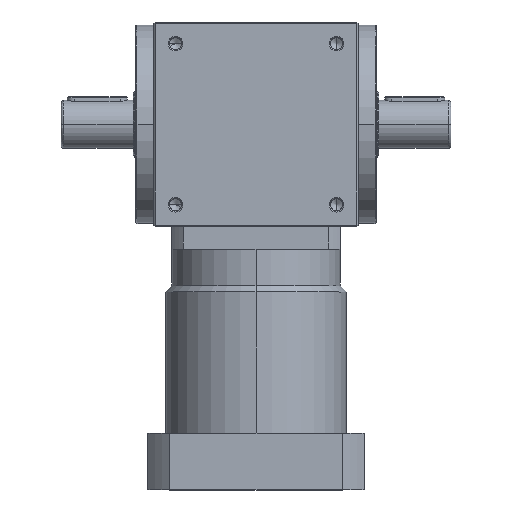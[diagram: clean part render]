
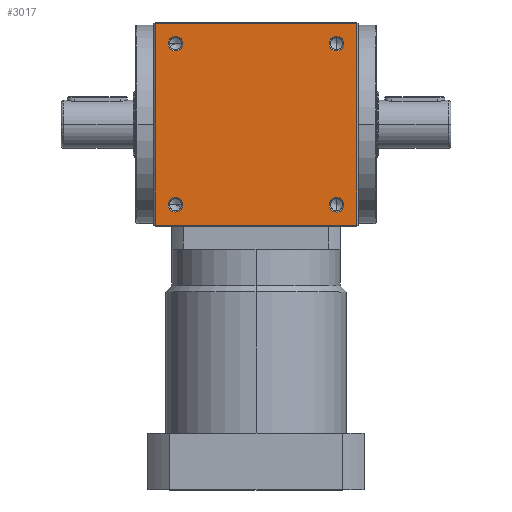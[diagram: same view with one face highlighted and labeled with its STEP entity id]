
A CAD part, top view. The second image highlights one B-rep face of the part: STEP entity #3017.
In plain terms, the highlighted planar face has unit normal (0, 0, 1).
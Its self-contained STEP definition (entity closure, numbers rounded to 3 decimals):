
#16 = EDGE_LOOP ( 'NONE', ( #2472, #1850 ) ) ;
#330 = CARTESIAN_POINT ( 'NONE',  ( 73.1, -67., 85. ) ) ;
#368 = LINE ( 'NONE', #12877, #6055 ) ;
#434 = AXIS2_PLACEMENT_3D ( 'NONE', #7140, #7122, #7114 ) ;
#543 = VERTEX_POINT ( 'NONE', #2344 ) ;
#544 = CARTESIAN_POINT ( 'NONE',  ( -73.1, 67., 85. ) ) ;
#658 = CARTESIAN_POINT ( 'NONE',  ( 0., -84., 85. ) ) ;
#692 = CARTESIAN_POINT ( 'NONE',  ( -73.1, -67., 85. ) ) ;
#738 = ORIENTED_EDGE ( 'NONE', *, *, #12549, .T. ) ;
#1176 = DIRECTION ( 'NONE',  ( 1., 0., 0. ) ) ;
#1328 = EDGE_CURVE ( 'NONE', #8059, #5375, #3643, .T. ) ;
#1421 = FACE_BOUND ( 'NONE', #12584, .T. ) ;
#1583 = ORIENTED_EDGE ( 'NONE', *, *, #1328, .F. ) ;
#1751 = EDGE_LOOP ( 'NONE', ( #1583, #11844 ) ) ;
#1850 = ORIENTED_EDGE ( 'NONE', *, *, #4255, .F. ) ;
#1965 = LINE ( 'NONE', #12853, #10666 ) ;
#2010 = CIRCLE ( 'NONE', #4167, 6.1 ) ;
#2344 = CARTESIAN_POINT ( 'NONE',  ( 60.9, 67., 85. ) ) ;
#2437 = EDGE_CURVE ( 'NONE', #6266, #11735, #4781, .T. ) ;
#2472 = ORIENTED_EDGE ( 'NONE', *, *, #8978, .F. ) ;
#2588 = ORIENTED_EDGE ( 'NONE', *, *, #8879, .F. ) ;
#2629 = DIRECTION ( 'NONE',  ( 0., -1., 0. ) ) ;
#2883 = DIRECTION ( 'NONE',  ( -1., 0., 0. ) ) ;
#2886 = DIRECTION ( 'NONE',  ( 0., 0., -1. ) ) ;
#3017 = ADVANCED_FACE ( 'NONE', ( #8639, #8331, #6284, #9012, #1421 ), #7336, .F. ) ;
#3103 = VECTOR ( 'NONE', #3879, 1000. ) ;
#3268 = LINE ( 'NONE', #4411, #3103 ) ;
#3409 = ORIENTED_EDGE ( 'NONE', *, *, #11379, .F. ) ;
#3643 = CIRCLE ( 'NONE', #6832, 6.1 ) ;
#3779 = DIRECTION ( 'NONE',  ( 1., 0., 0. ) ) ;
#3795 = DIRECTION ( 'NONE',  ( 0., 0., 1. ) ) ;
#3804 = CARTESIAN_POINT ( 'NONE',  ( -67., 67., 85. ) ) ;
#3828 = VERTEX_POINT ( 'NONE', #11688 ) ;
#3879 = DIRECTION ( 'NONE',  ( 0., 1., 0. ) ) ;
#4082 = CARTESIAN_POINT ( 'NONE',  ( -60.9, -67., 85. ) ) ;
#4167 = AXIS2_PLACEMENT_3D ( 'NONE', #10884, #10883, #10870 ) ;
#4255 = EDGE_CURVE ( 'NONE', #543, #9379, #8441, .T. ) ;
#4307 = DIRECTION ( 'NONE',  ( 0., 0., 1. ) ) ;
#4411 = CARTESIAN_POINT ( 'NONE',  ( 84., 0., 85. ) ) ;
#4590 = AXIS2_PLACEMENT_3D ( 'NONE', #11478, #11476, #11449 ) ;
#4781 = CIRCLE ( 'NONE', #5488, 6.1 ) ;
#4792 = AXIS2_PLACEMENT_3D ( 'NONE', #7858, #12059, #1176 ) ;
#5371 = VERTEX_POINT ( 'NONE', #544 ) ;
#5375 = VERTEX_POINT ( 'NONE', #692 ) ;
#5488 = AXIS2_PLACEMENT_3D ( 'NONE', #5864, #4307, #5845 ) ;
#5566 = EDGE_LOOP ( 'NONE', ( #9850, #8591, #738, #8604 ) ) ;
#5787 = CARTESIAN_POINT ( 'NONE',  ( 84., -84., 85. ) ) ;
#5845 = DIRECTION ( 'NONE',  ( 1., 0., 0. ) ) ;
#5864 = CARTESIAN_POINT ( 'NONE',  ( 67., -67., 85. ) ) ;
#6012 = EDGE_CURVE ( 'NONE', #5371, #9342, #6093, .T. ) ;
#6055 = VECTOR ( 'NONE', #12920, 1000. ) ;
#6093 = CIRCLE ( 'NONE', #4792, 6.1 ) ;
#6255 = EDGE_LOOP ( 'NONE', ( #3409, #7149 ) ) ;
#6266 = VERTEX_POINT ( 'NONE', #12232 ) ;
#6284 = FACE_BOUND ( 'NONE', #16, .T. ) ;
#6832 = AXIS2_PLACEMENT_3D ( 'NONE', #12444, #12437, #12415 ) ;
#7037 = EDGE_CURVE ( 'NONE', #5375, #8059, #7409, .T. ) ;
#7114 = DIRECTION ( 'NONE',  ( 1., 0., 0. ) ) ;
#7122 = DIRECTION ( 'NONE',  ( 0., 0., 1. ) ) ;
#7140 = CARTESIAN_POINT ( 'NONE',  ( -67., -67., 85. ) ) ;
#7149 = ORIENTED_EDGE ( 'NONE', *, *, #6012, .F. ) ;
#7336 = PLANE ( 'NONE',  #11703 ) ;
#7409 = CIRCLE ( 'NONE', #434, 6.1 ) ;
#7858 = CARTESIAN_POINT ( 'NONE',  ( -67., 67., 85. ) ) ;
#7911 = CARTESIAN_POINT ( 'NONE',  ( 73.1, 67., 85. ) ) ;
#8059 = VERTEX_POINT ( 'NONE', #4082 ) ;
#8069 = CARTESIAN_POINT ( 'NONE',  ( 0., 0., 85. ) ) ;
#8119 = CARTESIAN_POINT ( 'NONE',  ( -60.9, 67., 85. ) ) ;
#8331 = FACE_BOUND ( 'NONE', #6255, .T. ) ;
#8441 = CIRCLE ( 'NONE', #12032, 6.1 ) ;
#8591 = ORIENTED_EDGE ( 'NONE', *, *, #12450, .T. ) ;
#8604 = ORIENTED_EDGE ( 'NONE', *, *, #12566, .T. ) ;
#8624 = DIRECTION ( 'NONE',  ( 1., 0., 0. ) ) ;
#8632 = DIRECTION ( 'NONE',  ( 0., 0., 1. ) ) ;
#8634 = CARTESIAN_POINT ( 'NONE',  ( 67., 67., 85. ) ) ;
#8639 = FACE_OUTER_BOUND ( 'NONE', #5566, .T. ) ;
#8717 = VECTOR ( 'NONE', #11904, 1000. ) ;
#8879 = EDGE_CURVE ( 'NONE', #11735, #6266, #11980, .T. ) ;
#8978 = EDGE_CURVE ( 'NONE', #9379, #543, #2010, .T. ) ;
#9012 = FACE_BOUND ( 'NONE', #1751, .T. ) ;
#9171 = LINE ( 'NONE', #658, #8717 ) ;
#9270 = CARTESIAN_POINT ( 'NONE',  ( 84., 84., 85. ) ) ;
#9342 = VERTEX_POINT ( 'NONE', #8119 ) ;
#9379 = VERTEX_POINT ( 'NONE', #7911 ) ;
#9850 = ORIENTED_EDGE ( 'NONE', *, *, #12226, .T. ) ;
#9894 = ORIENTED_EDGE ( 'NONE', *, *, #2437, .F. ) ;
#9957 = CIRCLE ( 'NONE', #12563, 6.1 ) ;
#9982 = CARTESIAN_POINT ( 'NONE',  ( -84., 84., 85. ) ) ;
#10105 = VERTEX_POINT ( 'NONE', #9270 ) ;
#10666 = VECTOR ( 'NONE', #2629, 1000. ) ;
#10686 = VERTEX_POINT ( 'NONE', #9982 ) ;
#10870 = DIRECTION ( 'NONE',  ( 1., 0., 0. ) ) ;
#10883 = DIRECTION ( 'NONE',  ( 0., 0., 1. ) ) ;
#10884 = CARTESIAN_POINT ( 'NONE',  ( 67., 67., 85. ) ) ;
#11184 = VERTEX_POINT ( 'NONE', #5787 ) ;
#11379 = EDGE_CURVE ( 'NONE', #9342, #5371, #9957, .T. ) ;
#11449 = DIRECTION ( 'NONE',  ( 1., 0., 0. ) ) ;
#11476 = DIRECTION ( 'NONE',  ( 0., 0., 1. ) ) ;
#11478 = CARTESIAN_POINT ( 'NONE',  ( 67., -67., 85. ) ) ;
#11688 = CARTESIAN_POINT ( 'NONE',  ( -84., -84., 85. ) ) ;
#11703 = AXIS2_PLACEMENT_3D ( 'NONE', #8069, #2886, #2883 ) ;
#11735 = VERTEX_POINT ( 'NONE', #330 ) ;
#11844 = ORIENTED_EDGE ( 'NONE', *, *, #7037, .F. ) ;
#11904 = DIRECTION ( 'NONE',  ( 1., 0., 0. ) ) ;
#11980 = CIRCLE ( 'NONE', #4590, 6.1 ) ;
#12032 = AXIS2_PLACEMENT_3D ( 'NONE', #8634, #8632, #8624 ) ;
#12059 = DIRECTION ( 'NONE',  ( 0., 0., 1. ) ) ;
#12226 = EDGE_CURVE ( 'NONE', #3828, #11184, #9171, .T. ) ;
#12232 = CARTESIAN_POINT ( 'NONE',  ( 60.9, -67., 85. ) ) ;
#12415 = DIRECTION ( 'NONE',  ( 1., 0., 0. ) ) ;
#12437 = DIRECTION ( 'NONE',  ( 0., 0., 1. ) ) ;
#12444 = CARTESIAN_POINT ( 'NONE',  ( -67., -67., 85. ) ) ;
#12450 = EDGE_CURVE ( 'NONE', #11184, #10105, #3268, .T. ) ;
#12549 = EDGE_CURVE ( 'NONE', #10105, #10686, #368, .T. ) ;
#12563 = AXIS2_PLACEMENT_3D ( 'NONE', #3804, #3795, #3779 ) ;
#12566 = EDGE_CURVE ( 'NONE', #10686, #3828, #1965, .T. ) ;
#12584 = EDGE_LOOP ( 'NONE', ( #2588, #9894 ) ) ;
#12853 = CARTESIAN_POINT ( 'NONE',  ( -84., 0., 85. ) ) ;
#12877 = CARTESIAN_POINT ( 'NONE',  ( 0., 84., 85. ) ) ;
#12920 = DIRECTION ( 'NONE',  ( -1., 0., 0. ) ) ;
